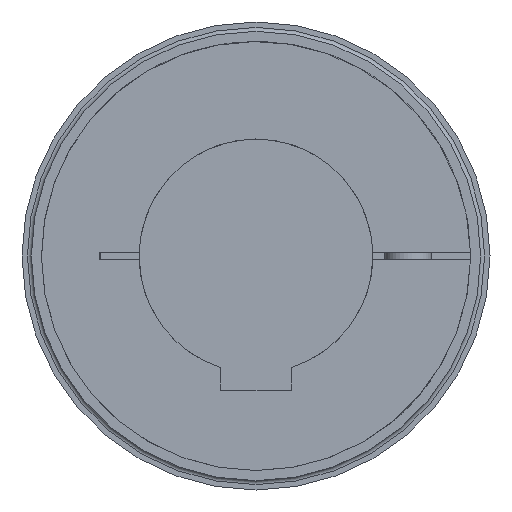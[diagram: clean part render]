
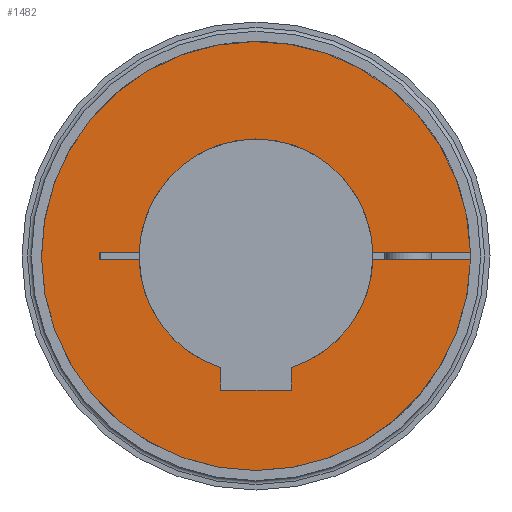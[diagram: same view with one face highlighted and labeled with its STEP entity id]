
A CAD part, left-side view. The second image highlights one B-rep face of the part: STEP entity #1482.
In plain terms, the highlighted planar face has unit normal (-1, 0, 0).
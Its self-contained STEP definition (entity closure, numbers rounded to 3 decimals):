
#24=PLANE('',#1695);
#141=LINE('',#2678,#244);
#144=LINE('',#2684,#247);
#145=LINE('',#2686,#248);
#156=LINE('',#2707,#259);
#157=LINE('',#2709,#260);
#158=LINE('',#2711,#261);
#159=LINE('',#2713,#262);
#160=LINE('',#2714,#263);
#244=VECTOR('',#2053,1.);
#247=VECTOR('',#2058,1.);
#248=VECTOR('',#2061,1.);
#259=VECTOR('',#2084,1.);
#260=VECTOR('',#2087,1.);
#261=VECTOR('',#2088,1.);
#262=VECTOR('',#2089,1.);
#263=VECTOR('',#2090,1.);
#375=FACE_OUTER_BOUND('',#470,.T.);
#470=EDGE_LOOP('',(#1224,#1225,#1226,#1227,#1228,#1229,#1230,#1231,#1232,
#1233,#1234,#1235,#1236));
#604=CIRCLE('',#1630,55.);
#607=CIRCLE('',#1633,55.);
#638=CIRCLE('',#1679,30.);
#641=CIRCLE('',#1683,30.);
#643=CIRCLE('',#1685,30.);
#697=VERTEX_POINT('',#2374);
#698=VERTEX_POINT('',#2376);
#703=VERTEX_POINT('',#2386);
#744=VERTEX_POINT('',#2648);
#745=VERTEX_POINT('',#2649);
#750=VERTEX_POINT('',#2660);
#751=VERTEX_POINT('',#2662);
#754=VERTEX_POINT('',#2668);
#755=VERTEX_POINT('',#2670);
#757=VERTEX_POINT('',#2676);
#759=VERTEX_POINT('',#2682);
#764=VERTEX_POINT('',#2710);
#765=VERTEX_POINT('',#2712);
#862=EDGE_CURVE('',#697,#698,#604,.T.);
#868=EDGE_CURVE('',#703,#697,#607,.T.);
#921=EDGE_CURVE('',#744,#745,#638,.T.);
#927=EDGE_CURVE('',#751,#750,#641,.T.);
#931=EDGE_CURVE('',#755,#754,#643,.T.);
#935=EDGE_CURVE('',#754,#757,#141,.T.);
#938=EDGE_CURVE('',#757,#759,#144,.T.);
#939=EDGE_CURVE('',#759,#751,#145,.T.);
#950=EDGE_CURVE('',#745,#698,#156,.T.);
#951=EDGE_CURVE('',#703,#755,#157,.T.);
#952=EDGE_CURVE('',#750,#764,#158,.T.);
#953=EDGE_CURVE('',#764,#765,#159,.T.);
#954=EDGE_CURVE('',#765,#744,#160,.T.);
#1224=ORIENTED_EDGE('',*,*,#921,.T.);
#1225=ORIENTED_EDGE('',*,*,#950,.T.);
#1226=ORIENTED_EDGE('',*,*,#862,.F.);
#1227=ORIENTED_EDGE('',*,*,#868,.F.);
#1228=ORIENTED_EDGE('',*,*,#951,.T.);
#1229=ORIENTED_EDGE('',*,*,#931,.T.);
#1230=ORIENTED_EDGE('',*,*,#935,.T.);
#1231=ORIENTED_EDGE('',*,*,#938,.T.);
#1232=ORIENTED_EDGE('',*,*,#939,.T.);
#1233=ORIENTED_EDGE('',*,*,#927,.T.);
#1234=ORIENTED_EDGE('',*,*,#952,.T.);
#1235=ORIENTED_EDGE('',*,*,#953,.T.);
#1236=ORIENTED_EDGE('',*,*,#954,.T.);
#1482=ADVANCED_FACE('',(#375),#24,.T.);
#1630=AXIS2_PLACEMENT_3D('',#2377,#1912,#1913);
#1633=AXIS2_PLACEMENT_3D('',#2388,#1921,#1922);
#1679=AXIS2_PLACEMENT_3D('',#2650,#2029,#2030);
#1683=AXIS2_PLACEMENT_3D('',#2663,#2040,#2041);
#1685=AXIS2_PLACEMENT_3D('',#2671,#2046,#2047);
#1695=AXIS2_PLACEMENT_3D('',#2708,#2085,#2086);
#1912=DIRECTION('center_axis',(1.,0.,0.));
#1913=DIRECTION('ref_axis',(0.,0.,1.));
#1921=DIRECTION('center_axis',(1.,0.,0.));
#1922=DIRECTION('ref_axis',(0.,0.,1.));
#2029=DIRECTION('center_axis',(1.,0.,0.));
#2030=DIRECTION('ref_axis',(0.,0.,-1.));
#2040=DIRECTION('center_axis',(1.,0.,0.));
#2041=DIRECTION('ref_axis',(0.,0.,-1.));
#2046=DIRECTION('center_axis',(1.,0.,0.));
#2047=DIRECTION('ref_axis',(0.,0.,-1.));
#2053=DIRECTION('',(0.,0.,-1.));
#2058=DIRECTION('',(0.,1.,0.));
#2061=DIRECTION('',(0.,0.,1.));
#2084=DIRECTION('',(0.,-1.,0.));
#2085=DIRECTION('center_axis',(-1.,0.,0.));
#2086=DIRECTION('ref_axis',(0.,0.,-1.));
#2087=DIRECTION('',(0.,1.,0.));
#2088=DIRECTION('',(0.,1.,0.));
#2089=DIRECTION('',(0.,0.,1.));
#2090=DIRECTION('',(0.,-1.,0.));
#2374=CARTESIAN_POINT('',(0.,0.,-55.));
#2376=CARTESIAN_POINT('',(0.,-54.991,1.));
#2377=CARTESIAN_POINT('Origin',(0.,0.,0.));
#2386=CARTESIAN_POINT('',(0.,-54.991,-1.));
#2388=CARTESIAN_POINT('Origin',(0.,0.,0.));
#2648=CARTESIAN_POINT('',(0.,29.983,1.));
#2649=CARTESIAN_POINT('',(0.,-29.983,1.));
#2650=CARTESIAN_POINT('Origin',(0.,0.,0.));
#2660=CARTESIAN_POINT('',(0.,29.983,-1.));
#2662=CARTESIAN_POINT('',(0.,9.,-28.618));
#2663=CARTESIAN_POINT('Origin',(0.,0.,0.));
#2668=CARTESIAN_POINT('',(0.,-9.,-28.618));
#2670=CARTESIAN_POINT('',(0.,-29.983,-1.));
#2671=CARTESIAN_POINT('Origin',(0.,0.,0.));
#2676=CARTESIAN_POINT('',(0.,-9.,-34.4));
#2678=CARTESIAN_POINT('',(0.,-9.,5.15));
#2682=CARTESIAN_POINT('',(0.,9.,-34.4));
#2684=CARTESIAN_POINT('',(0.,0.,-34.4));
#2686=CARTESIAN_POINT('',(0.,9.,5.15));
#2707=CARTESIAN_POINT('',(0.,-4.,1.));
#2708=CARTESIAN_POINT('Origin',(0.,0.,27.5));
#2709=CARTESIAN_POINT('',(0.,-4.,-1.));
#2710=CARTESIAN_POINT('',(0.,40.,-1.));
#2711=CARTESIAN_POINT('',(0.,-4.,-1.));
#2712=CARTESIAN_POINT('',(0.,40.,1.));
#2713=CARTESIAN_POINT('',(0.,40.,13.75));
#2714=CARTESIAN_POINT('',(0.,-4.,1.));
